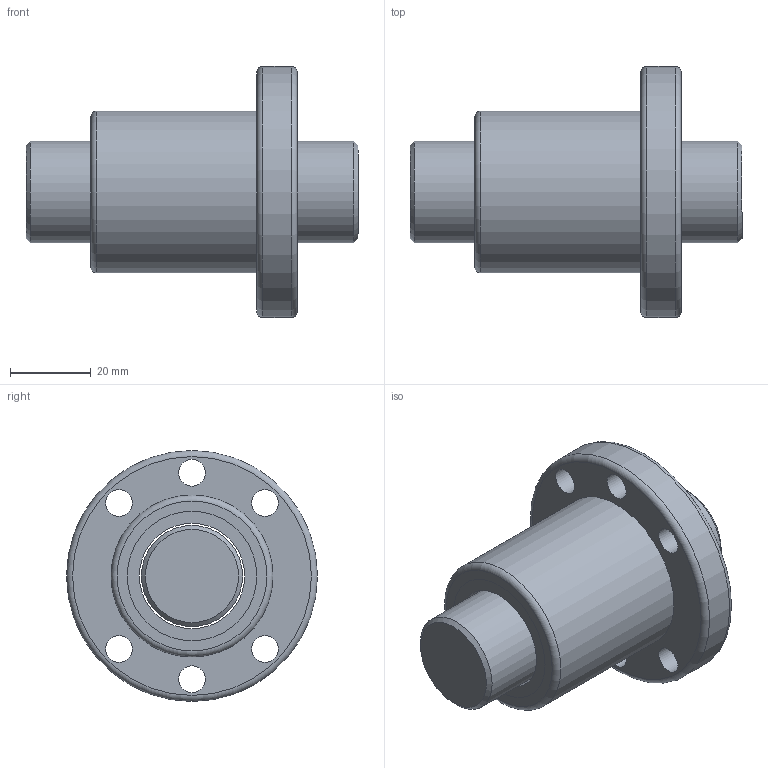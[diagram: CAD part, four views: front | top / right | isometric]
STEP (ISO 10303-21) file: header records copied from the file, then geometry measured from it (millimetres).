
FILE_DESCRIPTION(/* description */ (''),/* implementation_level */ '2;1');
FILE_NAME(/* name */ 'SFU2505',/* time_stamp */ '2007-10-26T13:26:38+08:00',/* author */ (''),/* organization */ (''),/* preprocessor_version */ 'ST-DEVELOPER v9',/* originating_system */ 'EDS PLM SOLUTIONS - UNIGRAPHICS NX 1.0',/* authorisation */ '');
FILE_SCHEMA (('CONFIG_CONTROL_DESIGN'));
Length unit declared in the file: millimetre
Products named in the file (1): FANNDA0400i1
Bounding box: 82 x 62 x 62 mm (x, y, z)
Volume: 92512.2 mm3; surface area: 27172.1 mm2
Topology: 4 solids, 4 shells, 32 faces, 58 edges, 37 vertices
Faces by surface type: cylinder 16, plane 11, torus 3, cone 2
Full cylindrical faces by diameter (mm): 6.6 x6, 25 x1, 26 x3, 32 x4, 40 x1, 62 x1
Entity records: 810 total; most frequent: DIRECTION 140, CARTESIAN_POINT 107, EDGE_LOOP 74, ORIENTED_EDGE 74, AXIS2_PLACEMENT_3D 70, FACE_BOUND 61, VERTEX_POINT 37, EDGE_CURVE 37
